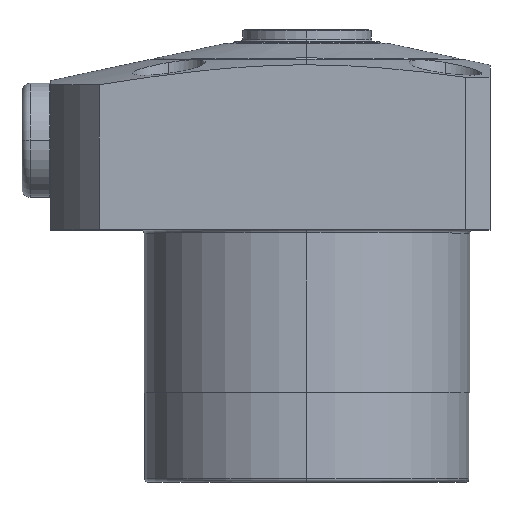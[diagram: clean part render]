
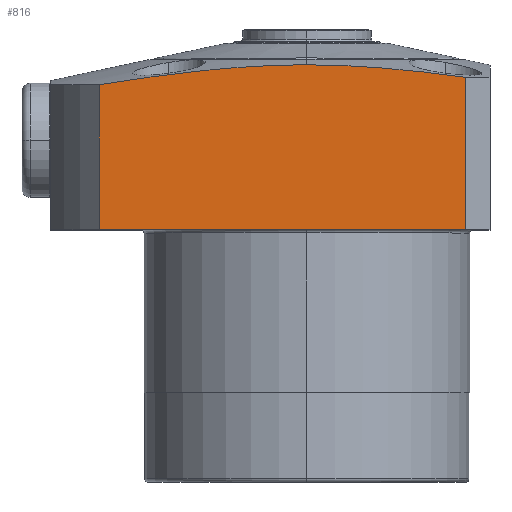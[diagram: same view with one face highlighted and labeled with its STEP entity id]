
A CAD part, top view. The second image highlights one B-rep face of the part: STEP entity #816.
In plain terms, the highlighted planar face has unit normal (0, 0, 1).
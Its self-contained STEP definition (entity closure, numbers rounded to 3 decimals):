
#100=B_SPLINE_CURVE_WITH_KNOTS('',3,(#4838,#4839,#4840,#4841),
 .UNSPECIFIED.,.F.,.F.,(4,4),(0.,1.),.UNSPECIFIED.);
#109=B_SPLINE_CURVE_WITH_KNOTS('',3,(#4935,#4936,#4937,#4938),
 .UNSPECIFIED.,.F.,.F.,(4,4),(0.,1.),.UNSPECIFIED.);
#264=PLANE('',#3137);
#517=LINE('',#4902,#658);
#522=LINE('',#4924,#663);
#529=LINE('',#5071,#670);
#658=VECTOR('',#3816,1.);
#663=VECTOR('',#3843,1.);
#670=VECTOR('',#3978,1.);
#816=ADVANCED_FACE('',(#999),#264,.T.);
#999=FACE_OUTER_BOUND('',#1192,.T.);
#1192=EDGE_LOOP('',(#1840,#1841,#1842,#1843,#1844));
#1840=ORIENTED_EDGE('',*,*,#2572,.T.);
#1841=ORIENTED_EDGE('',*,*,#2496,.F.);
#1842=ORIENTED_EDGE('',*,*,#2533,.F.);
#1843=ORIENTED_EDGE('',*,*,#2529,.F.);
#1844=ORIENTED_EDGE('',*,*,#2515,.F.);
#2189=VERTEX_POINT('',#4837);
#2190=VERTEX_POINT('',#4842);
#2205=VERTEX_POINT('',#4901);
#2206=VERTEX_POINT('',#4903);
#2210=VERTEX_POINT('',#4921);
#2496=EDGE_CURVE('',#2189,#2190,#100,.T.);
#2515=EDGE_CURVE('',#2205,#2206,#517,.T.);
#2529=EDGE_CURVE('',#2206,#2210,#522,.T.);
#2533=EDGE_CURVE('',#2210,#2189,#109,.T.);
#2572=EDGE_CURVE('',#2205,#2190,#529,.T.);
#3137=AXIS2_PLACEMENT_3D('',#5072,#3979,#3980);
#3816=DIRECTION('',(-1.,0.,0.));
#3843=DIRECTION('',(0.,1.,0.));
#3978=DIRECTION('',(0.,1.,0.));
#3979=DIRECTION('',(0.,0.,1.));
#3980=DIRECTION('',(-1.,0.,0.));
#4837=CARTESIAN_POINT('',(0.,51.243,22.5));
#4838=CARTESIAN_POINT('',(0.,51.243,22.5));
#4839=CARTESIAN_POINT('',(6.541,51.243,22.5));
#4840=CARTESIAN_POINT('',(13.031,50.597,22.5));
#4841=CARTESIAN_POINT('',(19.5,49.697,22.5));
#4842=CARTESIAN_POINT('',(19.5,49.697,22.5));
#4901=CARTESIAN_POINT('',(19.5,31.,22.5));
#4902=CARTESIAN_POINT('',(20.4,31.,22.5));
#4903=CARTESIAN_POINT('',(-25.49,31.,22.5));
#4921=CARTESIAN_POINT('',(-25.49,48.799,22.5));
#4924=CARTESIAN_POINT('',(-25.49,0.,22.5));
#4935=CARTESIAN_POINT('',(-25.49,48.799,22.5));
#4936=CARTESIAN_POINT('',(-17.044,50.145,22.5));
#4937=CARTESIAN_POINT('',(-8.575,51.243,22.5));
#4938=CARTESIAN_POINT('',(0.,51.243,22.5));
#5071=CARTESIAN_POINT('',(19.5,0.,22.5));
#5072=CARTESIAN_POINT('',(-31.5,0.,22.5));
